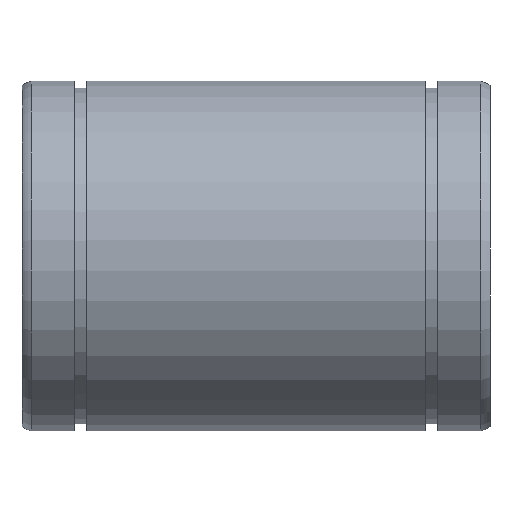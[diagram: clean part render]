
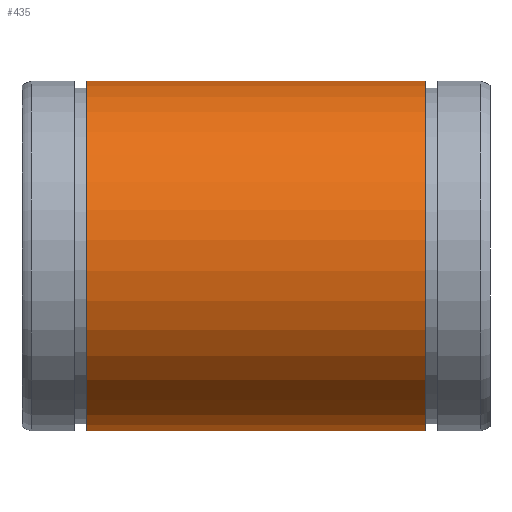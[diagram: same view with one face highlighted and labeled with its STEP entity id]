
A CAD part, top view. The second image highlights one B-rep face of the part: STEP entity #435.
In plain terms, the highlighted cylindrical face has radius 37.5 mm (diameter 75 mm), a partial arc.
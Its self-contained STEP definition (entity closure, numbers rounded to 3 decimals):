
#177=CARTESIAN_POINT('',(13.8,15.783,-34.017));
#178=VERTEX_POINT('',#177);
#185=CARTESIAN_POINT('',(86.2,15.783,-34.017));
#186=VERTEX_POINT('',#185);
#187=CARTESIAN_POINT('',(86.2,15.783,-34.017));
#188=DIRECTION('',(-1.0,0.0,0.0));
#189=VECTOR('',#188,72.4);
#190=LINE('',#187,#189);
#191=EDGE_CURVE('',#186,#178,#190,.T.);
#233=CARTESIAN_POINT('',(86.2,-15.783,-34.017));
#234=VERTEX_POINT('',#233);
#241=CARTESIAN_POINT('',(13.8,-15.783,-34.017));
#242=VERTEX_POINT('',#241);
#243=CARTESIAN_POINT('',(13.8,-15.783,-34.017));
#244=DIRECTION('',(1.0,0.0,0.0));
#245=VECTOR('',#244,72.4);
#246=LINE('',#243,#245);
#247=EDGE_CURVE('',#242,#234,#246,.T.);
#406=CARTESIAN_POINT('',(86.2,0.0,0.));
#407=DIRECTION('',(-1.0,0.0,0.0));
#408=DIRECTION('',(0.0,0.0,1.0));
#409=AXIS2_PLACEMENT_3D('',#406,#407,#408);
#410=CIRCLE('',#409,37.5);
#411=EDGE_CURVE('',#234,#186,#410,.T.);
#418=CARTESIAN_POINT('',(50.,0.0,0.));
#419=DIRECTION('',(-1.0,0.0,0.0));
#420=DIRECTION('',(0.0,0.0,1.0));
#421=AXIS2_PLACEMENT_3D('',#418,#419,#420);
#422=CYLINDRICAL_SURFACE('',#421,37.5);
#423=ORIENTED_EDGE('',*,*,#191,.T.);
#424=CARTESIAN_POINT('',(13.8,0.0,0.));
#425=DIRECTION('',(-1.0,0.0,0.0));
#426=DIRECTION('',(0.0,0.0,1.0));
#427=AXIS2_PLACEMENT_3D('',#424,#425,#426);
#428=CIRCLE('',#427,37.5);
#429=EDGE_CURVE('',#242,#178,#428,.T.);
#430=ORIENTED_EDGE('',*,*,#429,.F.);
#431=ORIENTED_EDGE('',*,*,#247,.T.);
#432=ORIENTED_EDGE('',*,*,#411,.T.);
#433=EDGE_LOOP('',(#423,#430,#431,#432));
#434=FACE_OUTER_BOUND('',#433,.T.);
#435=ADVANCED_FACE('',(#434),#422,.T.);
